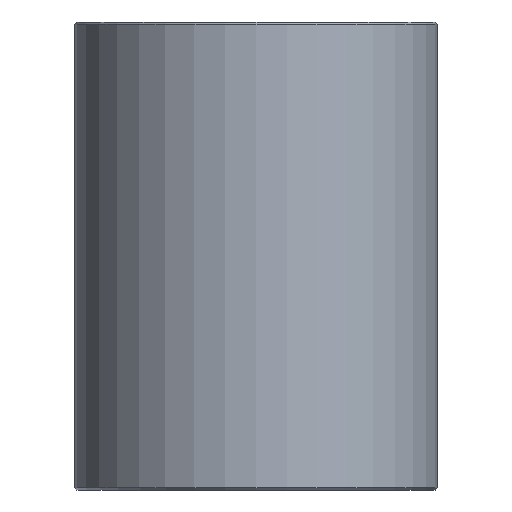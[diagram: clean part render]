
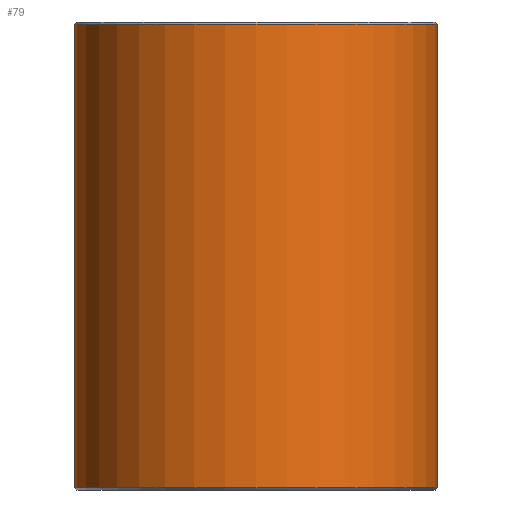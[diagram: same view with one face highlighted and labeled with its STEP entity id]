
A CAD part, front view. The second image highlights one B-rep face of the part: STEP entity #79.
In plain terms, the highlighted cylindrical face has radius 15.5 mm (diameter 31 mm), a full revolution.
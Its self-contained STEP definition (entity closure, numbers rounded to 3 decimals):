
#79=ADVANCED_FACE('',(#96,#97),#98,.T.);
#96=FACE_OUTER_BOUND('',#120,.T.);
#97=FACE_OUTER_BOUND('',#121,.T.);
#98=CYLINDRICAL_SURFACE('',#122,15.5);
#120=EDGE_LOOP('',(#152));
#121=EDGE_LOOP('',(#153));
#122=AXIS2_PLACEMENT_3D('',#154,#155,#156);
#152=ORIENTED_EDGE('',*,*,#178,.T.);
#153=ORIENTED_EDGE('',*,*,#177,.T.);
#154=CARTESIAN_POINT('',(0.0,0.0,40.0));
#155=DIRECTION('',(0.0,0.0,-1.0));
#156=DIRECTION('',(-1.0,0.0,0.0));
#177=EDGE_CURVE('',#190,#190,#191,.T.);
#178=EDGE_CURVE('',#192,#192,#193,.F.);
#190=VERTEX_POINT('',#206);
#191=CIRCLE('',#207,15.5);
#192=VERTEX_POINT('',#208);
#193=CIRCLE('',#209,15.5);
#206=CARTESIAN_POINT('',(15.5,0.0,0.2));
#207=AXIS2_PLACEMENT_3D('',#227,#228,#229);
#208=CARTESIAN_POINT('',(15.5,0.,39.8));
#209=AXIS2_PLACEMENT_3D('',#230,#231,#232);
#227=CARTESIAN_POINT('',(0.0,0.0,0.2));
#228=DIRECTION('',(0.0,0.0,1.0));
#229=DIRECTION('',(1.0,0.0,0.0));
#230=CARTESIAN_POINT('',(0.0,0.0,39.8));
#231=DIRECTION('',(0.0,0.0,1.0));
#232=DIRECTION('',(1.0,0.0,0.0));
